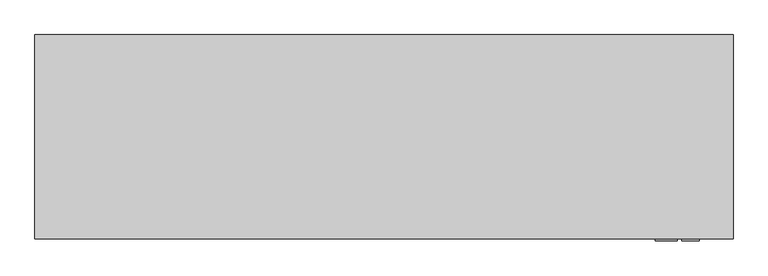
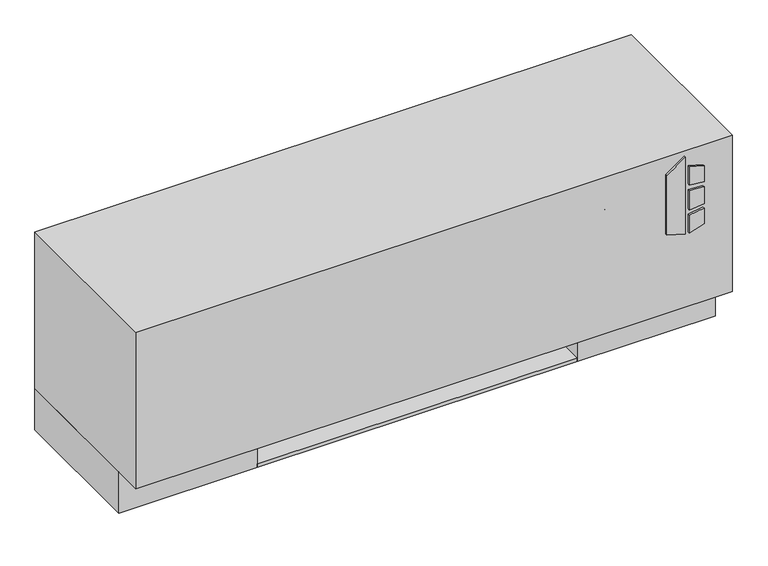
"""IFC4 building model written with IfcOpenShell, lengths in millimetres: proxy geometry, Exposed_Low_Boy_Fan_Coil_Unit Fan_-_LXA_-_IEC_-_4-Pipe_LH_2022 : Size 02 - 277v/60Hz/1Ph - 2/1 Coil."""

from ifc_helpers import new_model, si_unit, point, frame, frame_2d, origin, origin_with_axes, place, context, project, spatial, polyline, circle_curve, trimmed, segment, composite_curve, outline, extrude, faceted_brep, source, transform, mapped, element, save


def mechanical_equipment_0ebedba7(model_context):
    return source(origin(), model_context, "Body", "SolidModel", [
        faceted_brep([(1130.3, -266.7, 114.3), (952.5, -266.7, 114.3), (952.5, -520.7, 114.3), (1130.3, -520.7, 114.3), (955.675, -269.875, 114.3), (1127.125, -269.875, 114.3), (1127.125, -517.525, 114.3), (955.675, -517.525, 114.3), (1130.3, -266.7, 88.9), (1130.3, -520.7, 88.9), (952.5, -520.7, 88.9), (952.5, -266.7, 88.9), (1127.125, -269.875, 92.0747888), (955.675, -269.875, 92.0747888), (955.675, -517.525, 92.0747888), (1127.125, -517.525, 92.0747888)], [[[0, 1, 2, 3], [4, 5, 6, 7]], [[8, 9, 10, 11]], [[1, 0, 8, 11]], [[2, 1, 11, 10]], [[3, 2, 10, 9]], [[0, 3, 9, 8]], [[12, 13, 14, 15]], [[13, 12, 5, 4]], [[14, 13, 4, 7]], [[15, 14, 7, 6]], [[12, 15, 6, 5]]]),
        extrude(outline(composite_curve([segment(trimmed(circle_curve(frame_2d((1041.4, -393.7)), 9.525), [point((1031.875, -393.7))], [point((1050.925, -393.7))], False, "CARTESIAN"), True, "CONTINUOUS"), segment(trimmed(circle_curve(frame_2d((1041.4, -393.7)), 9.525), [point((1050.925, -393.7))], [point((1031.875, -393.7))], False, "CARTESIAN"), True, "CONTINUOUS")], self_intersect=False)), frame((0.0, 0.0, 63.5), z_axis=(0.0, 0.0, 1.0), x_axis=(1.0, 0.0, 0.0)), (0.0, 0.0, 1.0), 25.4),
        extrude(outline(polyline([(222.6730703, 1077.9868862), (212.725, 1110.1602728), (354.8959244, 1110.1602728), (331.8739183, 1077.9868862), (222.6730703, 1077.9868862)])), frame((0.0, -546.1, 0.0), z_axis=(0.0, 1.0, 0.0), x_axis=(0.0, 0.0, 1.0)), (0.0, 0.0, 1.0), 3.175),
        extrude(outline(polyline([(301.6723557, 1116.9186058), (298.4699632, 1143.0), (327.6988042, 1143.0), (335.7632193, 1116.9186058), (301.6723557, 1116.9186058)])), frame((0.0, -546.1, 0.0), z_axis=(0.0, 1.0, 0.0), x_axis=(0.0, 0.0, 1.0)), (0.0, 0.0, 1.0), 3.175),
        extrude(outline(polyline([(249.8088288, 1143.0), (246.1433279, 1116.9186058), (212.725, 1116.9186058), (221.3592372, 1143.0), (249.8088288, 1143.0)])), frame((0.0, -546.1, 0.0), z_axis=(0.0, 1.0, 0.0), x_axis=(0.0, 0.0, 1.0)), (0.0, 0.0, 1.0), 3.175),
        extrude(outline(polyline([(289.1239903, 1143.0), (291.4058166, 1116.9186058), (255.4682681, 1116.9186058), (258.2095331, 1143.0), (289.1239903, 1143.0)])), frame((0.0, -546.1, 0.0), z_axis=(0.0, 1.0, 0.0), x_axis=(0.0, 0.0, 1.0)), (0.0, 0.0, 1.0), 3.175),
        faceted_brep([(1193.8, -238.125, 365.125), (152.4, -238.125, 365.125), (152.4, -542.925, 365.125), (1193.8, -542.925, 365.125), (1193.8, -238.125, 76.2), (1193.8, -542.925, 76.2), (152.4, -542.925, 76.2), (152.4, -238.125, 76.2), (165.1, -238.125, 76.2), (165.1, -517.525, 76.2), (393.7, -517.525, 76.2), (393.7, -238.125, 76.2), (952.5, -238.125, 76.2), (952.5, -517.525, 76.2), (1181.1, -517.525, 76.2), (1181.1, -238.125, 76.2), (1181.1, -238.125, 339.725), (952.5, -238.125, 339.725), (393.7, -238.125, 339.725), (165.1, -238.125, 339.725), (1181.1, -517.525, 339.725), (952.5, -517.525, 339.725), (393.7, -517.525, 339.725), (165.1, -517.525, 339.725)], [[[0, 1, 2, 3]], [[4, 5, 6, 7, 8, 9, 10, 11, 12, 13, 14, 15]], [[1, 0, 4, 15, 16, 17, 12, 11, 18, 19, 8, 7]], [[2, 1, 7, 6]], [[3, 2, 6, 5]], [[0, 3, 5, 4]], [[16, 20, 21, 17]], [[18, 22, 23, 19]], [[17, 21, 13, 12]], [[21, 20, 14, 13]], [[20, 16, 15, 14]], [[19, 23, 9, 8]], [[23, 22, 10, 9]], [[22, 18, 11, 10]]]),
        extrude(outline(polyline([(952.5, -492.125), (393.7, -492.125), (393.7, -244.475), (952.5, -244.475), (952.5, -492.125)])), origin_with_axes(), (0.0, 0.0, 1.0), 6.35),
        extrude(outline(polyline([(952.5, -238.125), (952.5, -244.475), (393.7, -244.475), (393.7, -238.125), (952.5, -238.125)])), origin_with_axes(), (0.0, 0.0, 1.0), 76.2),
        extrude(outline(polyline([(1193.8, -238.125), (1193.8, -492.125), (952.5, -492.125), (952.5, -238.125), (1193.8, -238.125)]), holes=[polyline([(965.2, -485.775), (1181.1, -485.775), (1181.1, -244.475), (965.2, -244.475), (965.2, -485.775)])]), origin_with_axes(), (0.0, 0.0, 1.0), 76.2),
        extrude(outline(polyline([(393.7, -238.125), (393.7, -492.125), (152.4, -492.125), (152.4, -238.125), (393.7, -238.125)]), holes=[polyline([(381.0, -244.475), (165.1, -244.475), (165.1, -485.775), (381.0, -485.775), (381.0, -244.475)])]), origin_with_axes(), (0.0, 0.0, 1.0), 76.2),
        extrude(outline(composite_curve([segment(trimmed(circle_curve(frame_2d((-485.775, 268.2875)), 7.9375), [point((-485.775, 260.35))], [point((-485.775, 276.225))], False, "CARTESIAN"), True, "CONTINUOUS"), segment(trimmed(circle_curve(frame_2d((-485.775, 268.2875)), 7.9375), [point((-485.775, 276.225))], [point((-485.775, 260.35))], False, "CARTESIAN"), True, "CONTINUOUS")], self_intersect=False)), frame((952.5, 0.0, 0.0), z_axis=(1.0, 0.0, 0.0), x_axis=(0.0, 1.0, 0.0)), (0.0, 0.0, 1.0), 50.8),
        extrude(outline(composite_curve([segment(trimmed(circle_curve(frame_2d((-485.775, 227.0125)), 7.9375), [point((-485.775, 219.075))], [point((-485.775, 234.95))], False, "CARTESIAN"), True, "CONTINUOUS"), segment(trimmed(circle_curve(frame_2d((-485.775, 227.0125)), 7.9375), [point((-485.775, 234.95))], [point((-485.775, 219.075))], False, "CARTESIAN"), True, "CONTINUOUS")], self_intersect=False)), frame((952.5, 0.0, 0.0), z_axis=(1.0, 0.0, 0.0), x_axis=(0.0, 1.0, 0.0)), (0.0, 0.0, 1.0), 50.8),
        extrude(outline(composite_curve([segment(trimmed(circle_curve(frame_2d((-269.875, 273.05)), 7.9375), [point((-269.875, 265.1125))], [point((-269.875, 280.9875))], False, "CARTESIAN"), True, "CONTINUOUS"), segment(trimmed(circle_curve(frame_2d((-269.875, 273.05)), 7.9375), [point((-269.875, 280.9875))], [point((-269.875, 265.1125))], False, "CARTESIAN"), True, "CONTINUOUS")], self_intersect=False)), frame((952.5, 0.0, 0.0), z_axis=(1.0, 0.0, 0.0), x_axis=(0.0, 1.0, 0.0)), (0.0, 0.0, 1.0), 50.8),
        extrude(outline(composite_curve([segment(trimmed(circle_curve(frame_2d((-271.4625, 314.325)), 7.9375), [point((-271.4625, 306.3875))], [point((-271.4625, 322.2625))], False, "CARTESIAN"), True, "CONTINUOUS"), segment(trimmed(circle_curve(frame_2d((-271.4625, 314.325)), 7.9375), [point((-271.4625, 322.2625))], [point((-271.4625, 306.3875))], False, "CARTESIAN"), True, "CONTINUOUS")], self_intersect=False)), frame((952.5, 0.0, 0.0), z_axis=(1.0, 0.0, 0.0), x_axis=(0.0, 1.0, 0.0)), (0.0, 0.0, 1.0), 50.8),
    ])


if __name__ == "__main__":
    model = new_model("IFC4")
    model_context = context("Model", 3, world=origin())
    ifc_project = project(units=[si_unit("LENGTHUNIT", "METRE", prefix="MILLI")], contexts=[model_context])
    site = spatial("IfcSite", under=ifc_project)
    building = spatial("IfcBuilding", under=site)
    placement = place(None, origin())
    mechanical_equipment_shape = mechanical_equipment_0ebedba7(model_context)
    element("IfcBuildingElementProxy", 1, Name="Exposed_Low_Boy_Fan_Coil_Unit Fan_-_LXA_-_IEC_-_4-Pipe_LH_2022 : Size 02 - 277v/60Hz/1Ph - 2/1 Coil", ObjectType="Exposed_Low_Boy_Fan_Coil_Unit Fan_-_LXA_-_IEC_-_4-Pipe_LH_2022 : Size 02 - 277v/60Hz/1Ph - 2/1 Coil", at=placement, inside=building, context=model_context, shape_type="MappedRepresentation", body=[
        mapped(mechanical_equipment_shape, transform((0.0, 0.0, 0.0), x_axis=(1.0, 0.0, 0.0), y_axis=(0.0, 1.0, 0.0), z_axis=(0.0, 0.0, 1.0))),
    ])
    save(model, "model.ifc")
